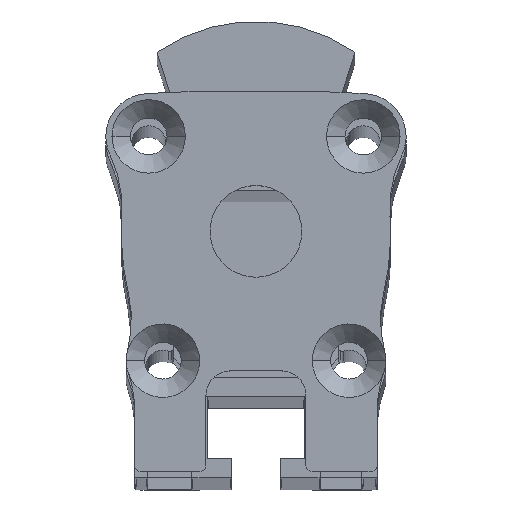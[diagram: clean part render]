
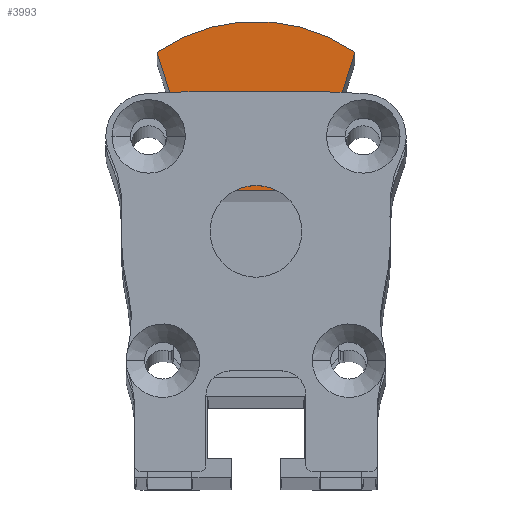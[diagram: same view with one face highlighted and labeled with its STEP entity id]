
A CAD part, top view. The second image highlights one B-rep face of the part: STEP entity #3993.
In plain terms, the highlighted planar face has unit normal (0, 0, 1).
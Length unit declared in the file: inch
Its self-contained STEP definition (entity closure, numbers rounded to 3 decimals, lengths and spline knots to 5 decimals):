
#3993=ADVANCED_FACE('',(#7809),#7810,.T.);
#4001=EDGE_CURVE('',#7813,#7819,#7822,.T.);
#4007=EDGE_CURVE('',#7827,#7819,#7830,.F.);
#4029=EDGE_CURVE('',#7861,#7862,#7863,.F.);
#4035=EDGE_CURVE('',#7869,#7870,#7871,.F.);
#4041=EDGE_CURVE('',#7870,#7861,#7877,.F.);
#4043=EDGE_CURVE('',#7869,#7879,#7880,.F.);
#4047=EDGE_CURVE('',#7813,#7862,#7884,.F.);
#4049=EDGE_CURVE('',#7886,#7887,#7888,.F.);
#4055=EDGE_CURVE('',#7827,#7894,#7895,.F.);
#4059=EDGE_CURVE('',#7894,#7886,#7899,.F.);
#4063=EDGE_CURVE('',#7901,#7887,#7904,.F.);
#4065=EDGE_CURVE('',#7879,#7901,#7906,.F.);
#7809=FACE_OUTER_BOUND('',#18404,.T.);
#7810=PLANE('',#18405);
#7813=VERTEX_POINT('',#18409);
#7819=VERTEX_POINT('',#18419);
#7822=LINE('',#18424,#18425);
#7827=VERTEX_POINT('',#18433);
#7830=LINE('',#18438,#18439);
#7861=VERTEX_POINT('',#18490);
#7862=VERTEX_POINT('',#18491);
#7863=LINE('',#18492,#18493);
#7869=VERTEX_POINT('',#18504);
#7870=VERTEX_POINT('',#18505);
#7871=LINE('',#18506,#18507);
#7877=LINE('',#18518,#18519);
#7879=VERTEX_POINT('',#18522);
#7880=LINE('',#18523,#18524);
#7884=LINE('',#18531,#18532);
#7886=VERTEX_POINT('',#18535);
#7887=VERTEX_POINT('',#18536);
#7888=LINE('',#18537,#18538);
#7894=VERTEX_POINT('',#18549);
#7895=LINE('',#18550,#18551);
#7899=LINE('',#18558,#18559);
#7901=VERTEX_POINT('',#18562);
#7904=LINE('',#18567,#18568);
#7906=CIRCLE('',#18571,0.56299);
#18404=EDGE_LOOP('',(#24113,#24114,#24115,#24116,#24117,#24118,#24119,#24120,#24121,#24122,#24123,#24124));
#18405=AXIS2_PLACEMENT_3D('',#24125,#24126,#24127);
#18409=CARTESIAN_POINT('',(-0.17932,0.15296,10.37287));
#18419=CARTESIAN_POINT('',(0.17932,0.15296,10.37287));
#18424=CARTESIAN_POINT('',(0.,0.15296,10.37287));
#18425=VECTOR('',#24131,1.0);
#18433=CARTESIAN_POINT('',(0.26301,0.4208,10.37287));
#18438=CARTESIAN_POINT('',(0.19145,0.19179,10.37287));
#18439=VECTOR('',#24134,1.0);
#18490=CARTESIAN_POINT('',(-0.21005,0.4208,10.37287));
#18491=CARTESIAN_POINT('',(-0.26301,0.4208,10.37287));
#18492=CARTESIAN_POINT('',(-0.12298,0.4208,10.37287));
#18493=VECTOR('',#24147,1.0);
#18504=CARTESIAN_POINT('',(-0.27532,0.46017,10.37287));
#18505=CARTESIAN_POINT('',(-0.21005,0.46017,10.37287));
#18506=CARTESIAN_POINT('',(-0.12298,0.46017,10.37287));
#18507=VECTOR('',#24150,1.0);
#18518=CARTESIAN_POINT('',(-0.21005,0.35333,10.37287));
#18519=VECTOR('',#24153,1.0);
#18522=CARTESIAN_POINT('',(-0.31832,0.59777,10.37287));
#18523=CARTESIAN_POINT('',(-0.19145,0.19179,10.37287));
#18524=VECTOR('',#24154,1.0);
#18531=CARTESIAN_POINT('',(-0.19145,0.19179,10.37287));
#18532=VECTOR('',#24156,1.0);
#18535=CARTESIAN_POINT('',(0.20856,0.46017,10.37287));
#18536=CARTESIAN_POINT('',(0.27532,0.46017,10.37287));
#18537=CARTESIAN_POINT('',(0.12223,0.46017,10.37287));
#18538=VECTOR('',#24157,1.0);
#18549=CARTESIAN_POINT('',(0.20856,0.4208,10.37287));
#18550=CARTESIAN_POINT('',(0.12223,0.4208,10.37287));
#18551=VECTOR('',#24160,1.0);
#18558=CARTESIAN_POINT('',(0.20856,0.35333,10.37287));
#18559=VECTOR('',#24162,1.0);
#18562=CARTESIAN_POINT('',(0.31832,0.59777,10.37287));
#18567=CARTESIAN_POINT('',(0.19145,0.19179,10.37287));
#18568=VECTOR('',#24164,1.0);
#18571=AXIS2_PLACEMENT_3D('',#24165,#24166,#24167);
#24113=ORIENTED_EDGE('',*,*,#4001,.T.);
#24114=ORIENTED_EDGE('',*,*,#4007,.F.);
#24115=ORIENTED_EDGE('',*,*,#4055,.T.);
#24116=ORIENTED_EDGE('',*,*,#4059,.T.);
#24117=ORIENTED_EDGE('',*,*,#4049,.T.);
#24118=ORIENTED_EDGE('',*,*,#4063,.F.);
#24119=ORIENTED_EDGE('',*,*,#4065,.F.);
#24120=ORIENTED_EDGE('',*,*,#4043,.F.);
#24121=ORIENTED_EDGE('',*,*,#4035,.T.);
#24122=ORIENTED_EDGE('',*,*,#4041,.T.);
#24123=ORIENTED_EDGE('',*,*,#4029,.T.);
#24124=ORIENTED_EDGE('',*,*,#4047,.F.);
#24125=CARTESIAN_POINT('',(0.,0.26619,10.37287));
#24126=DIRECTION('',(0.,0.,1.0));
#24127=DIRECTION('',(1.0,0.0,0.));
#24131=DIRECTION('',(1.0,0.0,0.));
#24134=DIRECTION('',(0.298,0.954,0.));
#24147=DIRECTION('',(1.0,0.0,0.));
#24150=DIRECTION('',(-1.0,0.0,0.));
#24153=DIRECTION('',(-0.0,1.0,0.));
#24154=DIRECTION('',(0.298,-0.954,0.));
#24156=DIRECTION('',(0.298,-0.954,0.));
#24157=DIRECTION('',(-1.0,0.0,0.));
#24160=DIRECTION('',(1.0,0.0,0.));
#24162=DIRECTION('',(-0.0,-1.0,0.));
#24164=DIRECTION('',(0.298,0.954,0.));
#24165=CARTESIAN_POINT('',(0.,0.13341,10.37287));
#24166=DIRECTION('',(0.,0.,1.0));
#24167=DIRECTION('',(1.0,0.,0.));
